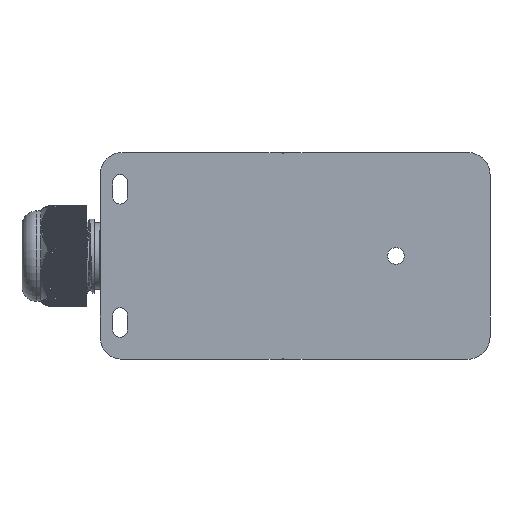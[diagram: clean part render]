
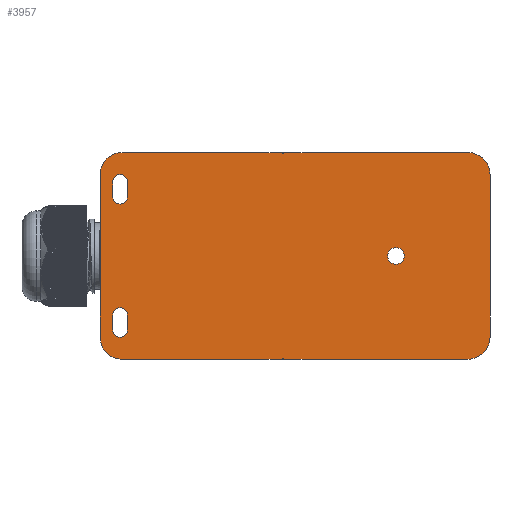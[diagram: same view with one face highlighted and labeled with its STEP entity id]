
A CAD part, top view. The second image highlights one B-rep face of the part: STEP entity #3957.
In plain terms, the highlighted planar face has unit normal (0, 0, 1).
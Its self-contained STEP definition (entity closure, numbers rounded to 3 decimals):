
#1467=ELLIPSE('',#43109,6.004,6.);
#1468=ELLIPSE('',#43110,6.004,6.);
#1469=ELLIPSE('',#43111,6.004,6.);
#1470=ELLIPSE('',#43112,6.004,6.);
#3957=ADVANCED_FACE('',(#7984,#7985,#7986,#7987),#6291,.T.);
#6291=PLANE('',#43114);
#7984=FACE_BOUND('',#8925,.T.);
#7985=FACE_BOUND('',#8926,.T.);
#7986=FACE_BOUND('',#8927,.T.);
#7987=FACE_BOUND('',#8928,.T.);
#8925=EDGE_LOOP('',(#13271,#13272,#13273,#13274));
#8926=EDGE_LOOP('',(#13275,#13276,#13277,#13278));
#8927=EDGE_LOOP('',(#13279,#13280,#13281,#13282,#13283,#13284,#13285,#13286,
#13287,#13288,#13289,#13290,#13291,#13292,#13293,#13294));
#8928=EDGE_LOOP('',(#13295));
#11853=CIRCLE('',#43105,2.);
#11854=CIRCLE('',#43106,2.);
#11855=CIRCLE('',#43107,2.);
#11856=CIRCLE('',#43108,2.);
#11857=CIRCLE('',#43113,2.25);
#13271=ORIENTED_EDGE('',*,*,#29657,.T.);
#13272=ORIENTED_EDGE('',*,*,#29658,.T.);
#13273=ORIENTED_EDGE('',*,*,#29659,.T.);
#13274=ORIENTED_EDGE('',*,*,#29660,.T.);
#13275=ORIENTED_EDGE('',*,*,#29661,.T.);
#13276=ORIENTED_EDGE('',*,*,#29662,.T.);
#13277=ORIENTED_EDGE('',*,*,#29663,.T.);
#13278=ORIENTED_EDGE('',*,*,#29664,.T.);
#13279=ORIENTED_EDGE('',*,*,#29665,.F.);
#13280=ORIENTED_EDGE('',*,*,#29666,.F.);
#13281=ORIENTED_EDGE('',*,*,#29667,.F.);
#13282=ORIENTED_EDGE('',*,*,#29668,.T.);
#13283=ORIENTED_EDGE('',*,*,#29669,.F.);
#13284=ORIENTED_EDGE('',*,*,#29670,.T.);
#13285=ORIENTED_EDGE('',*,*,#29671,.F.);
#13286=ORIENTED_EDGE('',*,*,#29672,.F.);
#13287=ORIENTED_EDGE('',*,*,#29673,.F.);
#13288=ORIENTED_EDGE('',*,*,#29674,.T.);
#13289=ORIENTED_EDGE('',*,*,#29675,.F.);
#13290=ORIENTED_EDGE('',*,*,#29676,.T.);
#13291=ORIENTED_EDGE('',*,*,#29677,.F.);
#13292=ORIENTED_EDGE('',*,*,#29678,.T.);
#13293=ORIENTED_EDGE('',*,*,#29679,.F.);
#13294=ORIENTED_EDGE('',*,*,#29680,.T.);
#13295=ORIENTED_EDGE('',*,*,#29681,.F.);
#25455=VERTEX_POINT('',#58146);
#25456=VERTEX_POINT('',#58147);
#25457=VERTEX_POINT('',#58149);
#25458=VERTEX_POINT('',#58151);
#25459=VERTEX_POINT('',#58154);
#25460=VERTEX_POINT('',#58155);
#25461=VERTEX_POINT('',#58157);
#25462=VERTEX_POINT('',#58159);
#25463=VERTEX_POINT('',#58162);
#25464=VERTEX_POINT('',#58163);
#25465=VERTEX_POINT('',#58165);
#25466=VERTEX_POINT('',#58167);
#25467=VERTEX_POINT('',#58169);
#25468=VERTEX_POINT('',#58171);
#25469=VERTEX_POINT('',#58173);
#25470=VERTEX_POINT('',#58175);
#25471=VERTEX_POINT('',#58177);
#25472=VERTEX_POINT('',#58179);
#25473=VERTEX_POINT('',#58181);
#25474=VERTEX_POINT('',#58183);
#25475=VERTEX_POINT('',#58185);
#25476=VERTEX_POINT('',#58187);
#25477=VERTEX_POINT('',#58189);
#25478=VERTEX_POINT('',#58191);
#25479=VERTEX_POINT('',#58194);
#29657=EDGE_CURVE('',#25455,#25456,#35615,.T.);
#29658=EDGE_CURVE('',#25456,#25457,#11853,.T.);
#29659=EDGE_CURVE('',#25457,#25458,#35616,.T.);
#29660=EDGE_CURVE('',#25458,#25455,#11854,.T.);
#29661=EDGE_CURVE('',#25459,#25460,#35617,.T.);
#29662=EDGE_CURVE('',#25460,#25461,#11855,.T.);
#29663=EDGE_CURVE('',#25461,#25462,#35618,.T.);
#29664=EDGE_CURVE('',#25462,#25459,#11856,.T.);
#29665=EDGE_CURVE('',#25463,#25464,#35619,.T.);
#29666=EDGE_CURVE('',#25465,#25463,#35620,.T.);
#29667=EDGE_CURVE('',#25466,#25465,#35621,.T.);
#29668=EDGE_CURVE('',#25466,#25467,#1467,.T.);
#29669=EDGE_CURVE('',#25468,#25467,#35622,.T.);
#29670=EDGE_CURVE('',#25468,#25469,#1468,.T.);
#29671=EDGE_CURVE('',#25470,#25469,#35623,.T.);
#29672=EDGE_CURVE('',#25471,#25470,#35624,.T.);
#29673=EDGE_CURVE('',#25472,#25471,#35625,.T.);
#29674=EDGE_CURVE('',#25472,#25473,#35626,.T.);
#29675=EDGE_CURVE('',#25474,#25473,#35627,.T.);
#29676=EDGE_CURVE('',#25474,#25475,#1469,.T.);
#29677=EDGE_CURVE('',#25476,#25475,#35628,.T.);
#29678=EDGE_CURVE('',#25476,#25477,#1470,.T.);
#29679=EDGE_CURVE('',#25478,#25477,#35629,.T.);
#29680=EDGE_CURVE('',#25478,#25464,#35630,.T.);
#29681=EDGE_CURVE('',#25479,#25479,#11857,.T.);
#35615=LINE('',#58145,#39311);
#35616=LINE('',#58150,#39312);
#35617=LINE('',#58153,#39313);
#35618=LINE('',#58158,#39314);
#35619=LINE('',#58161,#39315);
#35620=LINE('',#58164,#39316);
#35621=LINE('',#58166,#39317);
#35622=LINE('',#58170,#39318);
#35623=LINE('',#58174,#39319);
#35624=LINE('',#58176,#39320);
#35625=LINE('',#58178,#39321);
#35626=LINE('',#58180,#39322);
#35627=LINE('',#58182,#39323);
#35628=LINE('',#58186,#39324);
#35629=LINE('',#58190,#39325);
#35630=LINE('',#58192,#39326);
#39311=VECTOR('',#47021,1.);
#39312=VECTOR('',#47024,1.);
#39313=VECTOR('',#47027,1.);
#39314=VECTOR('',#47030,1.);
#39315=VECTOR('',#47033,1.);
#39316=VECTOR('',#47034,1.);
#39317=VECTOR('',#47035,1.);
#39318=VECTOR('',#47038,1.);
#39319=VECTOR('',#47041,1.);
#39320=VECTOR('',#47042,1.);
#39321=VECTOR('',#47043,1.);
#39322=VECTOR('',#47044,1.);
#39323=VECTOR('',#47045,1.);
#39324=VECTOR('',#47048,1.);
#39325=VECTOR('',#47051,1.);
#39326=VECTOR('',#47052,1.);
#43105=AXIS2_PLACEMENT_3D('',#58148,#47022,#47023);
#43106=AXIS2_PLACEMENT_3D('',#58152,#47025,#47026);
#43107=AXIS2_PLACEMENT_3D('',#58156,#47028,#47029);
#43108=AXIS2_PLACEMENT_3D('',#58160,#47031,#47032);
#43109=AXIS2_PLACEMENT_3D('',#58168,#47036,#47037);
#43110=AXIS2_PLACEMENT_3D('',#58172,#47039,#47040);
#43111=AXIS2_PLACEMENT_3D('',#58184,#47046,#47047);
#43112=AXIS2_PLACEMENT_3D('',#58188,#47049,#47050);
#43113=AXIS2_PLACEMENT_3D('',#58193,#47053,#47054);
#43114=AXIS2_PLACEMENT_3D('',#58195,#47055,#47056);
#47021=DIRECTION('',(0.,1.,0.));
#47022=DIRECTION('',(0.,0.,-1.));
#47023=DIRECTION('',(0.,1.,0.));
#47024=DIRECTION('',(0.,-1.,0.));
#47025=DIRECTION('',(0.,0.,-1.));
#47026=DIRECTION('',(0.,1.,0.));
#47027=DIRECTION('',(0.,1.,0.));
#47028=DIRECTION('',(0.,0.,-1.));
#47029=DIRECTION('',(0.,1.,0.));
#47030=DIRECTION('',(0.,-1.,0.));
#47031=DIRECTION('',(0.,0.,-1.));
#47032=DIRECTION('',(0.,1.,0.));
#47033=DIRECTION('',(-1.,0.,0.));
#47034=DIRECTION('',(0.,1.,0.));
#47035=DIRECTION('',(-1.,0.,0.));
#47036=DIRECTION('',(0.,0.,1.));
#47037=DIRECTION('',(0.707,-0.707,0.));
#47038=DIRECTION('',(0.,-1.,0.));
#47039=DIRECTION('',(0.,0.,1.));
#47040=DIRECTION('',(0.707,0.707,0.));
#47041=DIRECTION('',(1.,0.,0.));
#47042=DIRECTION('',(0.,1.,0.));
#47043=DIRECTION('',(1.,0.,0.));
#47044=DIRECTION('',(0.,1.,0.));
#47045=DIRECTION('',(1.,0.,0.));
#47046=DIRECTION('',(0.,0.,1.));
#47047=DIRECTION('',(-0.707,0.707,0.));
#47048=DIRECTION('',(0.,1.,0.));
#47049=DIRECTION('',(0.,0.,1.));
#47050=DIRECTION('',(-0.707,-0.707,0.));
#47051=DIRECTION('',(-1.,0.,0.));
#47052=DIRECTION('',(0.,1.,0.));
#47053=DIRECTION('',(0.,0.,1.));
#47054=DIRECTION('',(1.,0.,0.));
#47055=DIRECTION('',(0.,0.,1.));
#47056=DIRECTION('',(-1.,0.,0.));
#58145=CARTESIAN_POINT('',(3.,43.5,16.));
#58146=CARTESIAN_POINT('',(3.,43.5,16.));
#58147=CARTESIAN_POINT('',(3.,47.5,16.));
#58148=CARTESIAN_POINT('',(5.,47.5,16.));
#58149=CARTESIAN_POINT('',(7.,47.5,16.));
#58150=CARTESIAN_POINT('',(7.,47.5,16.));
#58151=CARTESIAN_POINT('',(7.,43.5,16.));
#58152=CARTESIAN_POINT('',(5.,43.5,16.));
#58153=CARTESIAN_POINT('',(3.,7.5,16.));
#58154=CARTESIAN_POINT('',(3.,7.5,16.));
#58155=CARTESIAN_POINT('',(3.,11.5,16.));
#58156=CARTESIAN_POINT('',(5.,11.5,16.));
#58157=CARTESIAN_POINT('',(7.,11.5,16.));
#58158=CARTESIAN_POINT('',(7.,11.5,16.));
#58159=CARTESIAN_POINT('',(7.,7.5,16.));
#58160=CARTESIAN_POINT('',(5.,7.5,16.));
#58161=CARTESIAN_POINT('',(76.625,-0.119,16.));
#58162=CARTESIAN_POINT('',(49.25,-0.119,16.));
#58163=CARTESIAN_POINT('',(48.75,-0.119,16.));
#58164=CARTESIAN_POINT('',(49.25,0.3,16.));
#58165=CARTESIAN_POINT('',(49.25,-0.419,16.));
#58166=CARTESIAN_POINT('',(0.,-0.419,16.));
#58167=CARTESIAN_POINT('',(98.921,-0.419,16.));
#58168=CARTESIAN_POINT('',(98.917,5.583,16.));
#58169=CARTESIAN_POINT('',(104.919,5.579,16.));
#58170=CARTESIAN_POINT('',(104.919,0.,16.));
#58171=CARTESIAN_POINT('',(104.919,49.421,16.));
#58172=CARTESIAN_POINT('',(98.917,49.417,16.));
#58173=CARTESIAN_POINT('',(98.921,55.419,16.));
#58174=CARTESIAN_POINT('',(0.,55.419,16.));
#58175=CARTESIAN_POINT('',(49.25,55.419,16.));
#58176=CARTESIAN_POINT('',(49.25,54.7,16.));
#58177=CARTESIAN_POINT('',(49.25,55.119,16.));
#58178=CARTESIAN_POINT('',(76.625,55.119,16.));
#58179=CARTESIAN_POINT('',(48.75,55.119,16.));
#58180=CARTESIAN_POINT('',(48.75,54.7,16.));
#58181=CARTESIAN_POINT('',(48.75,55.419,16.));
#58182=CARTESIAN_POINT('',(0.,55.419,16.));
#58183=CARTESIAN_POINT('',(5.579,55.419,16.));
#58184=CARTESIAN_POINT('',(5.583,49.417,16.));
#58185=CARTESIAN_POINT('',(-0.419,49.421,16.));
#58186=CARTESIAN_POINT('',(-0.419,0.,16.));
#58187=CARTESIAN_POINT('',(-0.419,5.579,16.));
#58188=CARTESIAN_POINT('',(5.583,5.583,16.));
#58189=CARTESIAN_POINT('',(5.579,-0.419,16.));
#58190=CARTESIAN_POINT('',(0.,-0.419,16.));
#58191=CARTESIAN_POINT('',(48.75,-0.419,16.));
#58192=CARTESIAN_POINT('',(48.75,0.3,16.));
#58193=CARTESIAN_POINT('',(79.5,27.5,16.));
#58194=CARTESIAN_POINT('',(81.75,27.5,16.));
#58195=CARTESIAN_POINT('',(0.,0.,16.));
